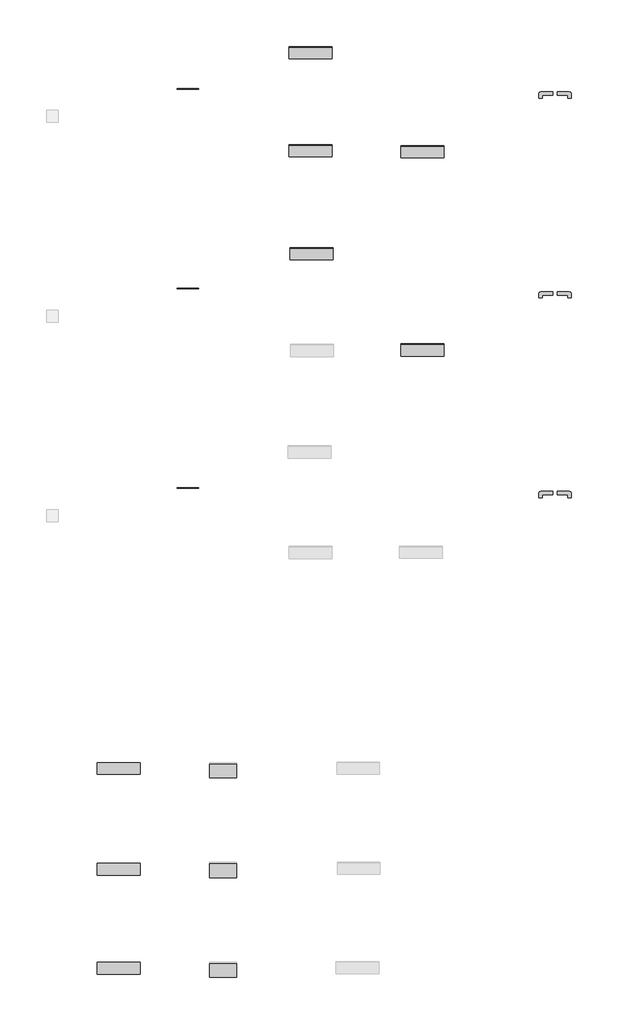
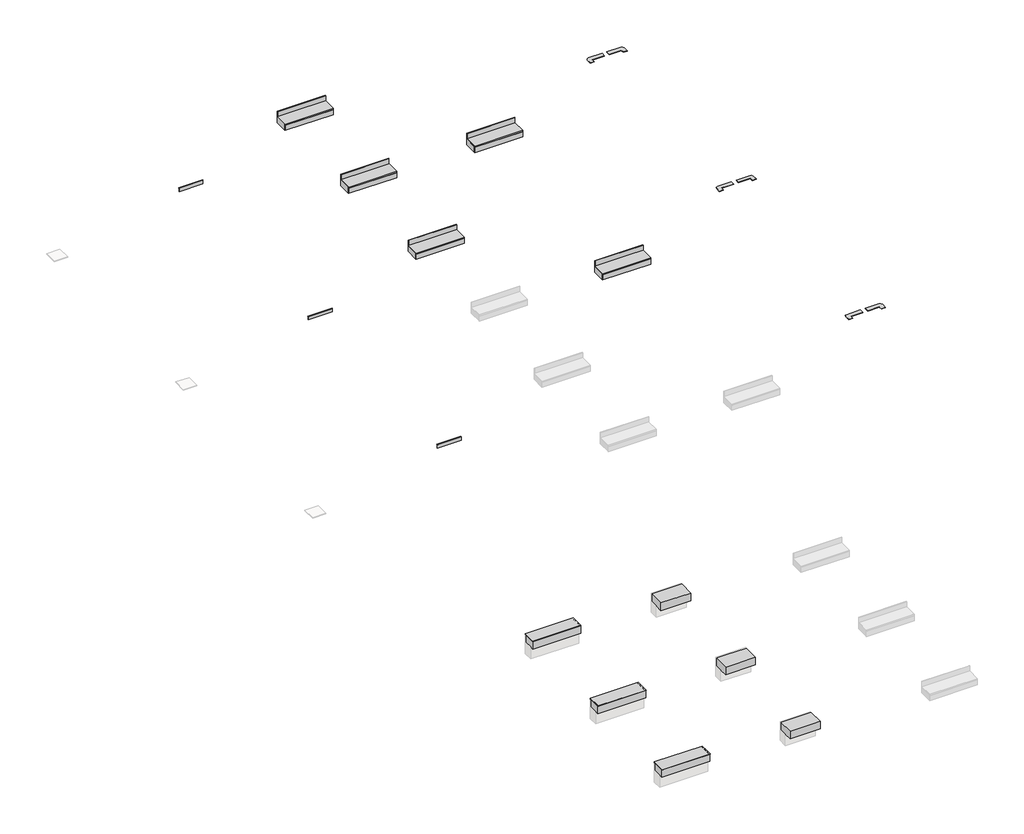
# One storey, part 2 of 2: 18 proxies, 5 stair flights.
"""IFC4 building model written with IfcOpenShell, lengths in millimetres."""

import ifcopenshell
import ifcopenshell.guid

model = None  # the IFC model being written
_history = None  # IfcOwnerHistory: only IFC2X3 demands one
_inside = {}  # id of a spatial element -> (the spatial element, [elements in it])
_under = {}  # id of a project, library or spatial element -> (it, [spatial elements below it])
_declared = {}  # id of a project -> (the project, [libraries it declares])
_typed = {}  # id of a type object -> (the type object, [elements of that type])
_made_of = {}  # id of a material, layer set ... -> (it, [elements and type objects made of it])


def new_model(schema):
    """Start an empty IFC model of exactly this schema.

    Asked for "IFC4X3", IfcOpenShell would pick the latest addendum, in which some entities
    have other attributes; the version numbers below select the first issue.
    IFC2X3 requires an IfcOwnerHistory on every rooted entity: one is made here for all.
    """
    global model, _history
    if schema == "IFC4X3":
        model = ifcopenshell.file(schema_version=(4, 3, 0, 0))
    else:
        model = ifcopenshell.file(schema=schema)
    _inside.clear()
    _under.clear()
    _declared.clear()
    _typed.clear()
    _made_of.clear()
    _history = None
    if model.schema == "IFC2X3":
        org = make("IfcOrganization", Name="unknown")
        user = make(
            "IfcPersonAndOrganization",
            ThePerson=make("IfcPerson", FamilyName="unknown"),
            TheOrganization=org,
        )
        app = make(
            "IfcApplication",
            ApplicationDeveloper=org,
            Version="unknown",
            ApplicationFullName="unknown",
            ApplicationIdentifier="unknown",
        )
        _history = make(
            "IfcOwnerHistory",
            OwningUser=user,
            OwningApplication=app,
            ChangeAction="ADDED",
            CreationDate=0,
        )
    return model


def make(cls, **values):
    """One entity of the class cls with the attributes given. An attribute that is None is left unset."""
    return model.create_entity(
        cls, **{name: value for name, value in values.items() if value is not None}
    )


def rooted(cls, **values):
    """An entity with a GlobalId (a new one), such as an element, a storey or a relation."""
    return make(cls, GlobalId=ifcopenshell.guid.new(), OwnerHistory=_history, **values)


def si_unit(unit_type, name, prefix=None):
    """IfcSIUnit, for example si_unit("LENGTHUNIT", "METRE", prefix="MILLI")."""
    return make("IfcSIUnit", UnitType=unit_type, Prefix=prefix, Name=name)


def assignment(units):
    """IfcUnitAssignment: the units of a project."""
    return None if units is None else make("IfcUnitAssignment", Units=units)


def point(xyz):
    """IfcCartesianPoint."""
    return None if xyz is None else make("IfcCartesianPoint", Coordinates=xyz)


def direction(xyz):
    """IfcDirection."""
    return None if xyz is None else make("IfcDirection", DirectionRatios=xyz)


def frame(location, z_axis=None, x_axis=None):
    """IfcAxis2Placement3D, a coordinate frame: its origin and axes. An axis left out is left unset."""
    return make(
        "IfcAxis2Placement3D",
        Location=point(location),
        Axis=direction(z_axis),
        RefDirection=direction(x_axis),
    )


def frame_2d(location, x_axis=None):
    """IfcAxis2Placement2D, a coordinate frame in the plane: its origin and x axis."""
    return make(
        "IfcAxis2Placement2D", Location=point(location), RefDirection=direction(x_axis)
    )


def origin():
    """The frame at (0, 0, 0) with its axes left unset."""
    return frame((0.0, 0.0, 0.0))


def origin_with_axes():
    """The frame at (0, 0, 0) with the z axis (0, 0, 1) and the x axis (1, 0, 0) written out."""
    return frame((0.0, 0.0, 0.0), z_axis=(0.0, 0.0, 1.0), x_axis=(1.0, 0.0, 0.0))


def place(relative_to, where):
    """IfcLocalPlacement: puts the frame where relative to a parent placement (None: the world)."""
    return make(
        "IfcLocalPlacement", PlacementRelTo=relative_to, RelativePlacement=where
    )


def context(
    kind, dimensions, precision=None, world=None, true_north=None, identifier=None
):
    """IfcGeometricRepresentationContext, for example the 3D "Model" context."""
    return make(
        "IfcGeometricRepresentationContext",
        ContextIdentifier=identifier,
        ContextType=kind,
        CoordinateSpaceDimension=dimensions,
        Precision=precision,
        WorldCoordinateSystem=world,
        TrueNorth=true_north,
    )


def project(units=None, contexts=None):
    """IfcProject with its units and contexts."""
    return rooted(
        "IfcProject",
        Name="project",
        RepresentationContexts=contexts,
        UnitsInContext=assignment(units),
    )


def spatial(cls, under=None, at=None, **own):
    """A site, building, storey or space (cls), placed at a placement, below another one or the project."""
    s = rooted(cls, ObjectPlacement=at, **own)
    if under is not None:
        _under.setdefault(under.id(), (under, []))[1].append(s)
    return s


def polyline(points):
    """IfcPolyline through the points."""
    return make("IfcPolyline", Points=[point(p) for p in points])


def circle_curve(where, radius):
    """IfcCircle in the frame where."""
    return make("IfcCircle", Position=where, Radius=radius)


def trimmed(basis, trim1, trim2, sense, master):
    """IfcTrimmedCurve: the piece of a basis curve between two trims."""
    return make(
        "IfcTrimmedCurve",
        BasisCurve=basis,
        Trim1=trim1,
        Trim2=trim2,
        SenseAgreement=sense,
        MasterRepresentation=master,
    )


def segment(curve, same_sense, transition):
    """IfcCompositeCurveSegment."""
    return make(
        "IfcCompositeCurveSegment",
        Transition=transition,
        SameSense=same_sense,
        ParentCurve=curve,
    )


def composite_curve(segments, self_intersect=None):
    """IfcCompositeCurve: segments joined end to end."""
    return make("IfcCompositeCurve", Segments=segments, SelfIntersect=self_intersect)


def outline(outer, holes=None, kind="AREA"):
    """IfcArbitraryClosedProfileDef: a profile drawn as a closed curve; with holes, ...WithVoids."""
    if holes is None:
        return make("IfcArbitraryClosedProfileDef", ProfileType=kind, OuterCurve=outer)
    return make(
        "IfcArbitraryProfileDefWithVoids",
        ProfileType=kind,
        OuterCurve=outer,
        InnerCurves=holes,
    )


def extrude(swept, where, along, depth):
    """IfcExtrudedAreaSolid: the profile swept, set in the frame where, extruded along a direction by depth."""
    return make(
        "IfcExtrudedAreaSolid",
        SweptArea=swept,
        Position=where,
        ExtrudedDirection=direction(along),
        Depth=depth,
    )


def faces_of(points, faces, orient=None, outer=None):
    """IfcFace entities. A face is a list of loops; a loop is a list of indices into points, from 0.

    orient and outer hold one flag for each loop. By default every Orientation is true, the
    first loop of a face is its IfcFaceOuterBound and the others are IfcFaceBound.
    """
    made = []
    for i, loops in enumerate(faces):
        bounds = []
        for j, loop in enumerate(loops):
            is_outer = j == 0 if outer is None else outer[i][j]
            bounds.append(
                make(
                    "IfcFaceOuterBound" if is_outer else "IfcFaceBound",
                    Bound=make("IfcPolyLoop", Polygon=[points[k] for k in loop]),
                    Orientation=True if orient is None else orient[i][j],
                )
            )
        made.append(make("IfcFace", Bounds=bounds))
    return made


def faceted_brep(points, faces, orient=None, outer=None, voids=None):
    """IfcFacetedBrep: a solid bounded by flat faces; with voids (closed shells), ...WithVoids."""
    shared = [point(p) for p in points]
    hull = make("IfcClosedShell", CfsFaces=faces_of(shared, faces, orient, outer))
    if voids is None:
        return make("IfcFacetedBrep", Outer=hull)
    return make(
        "IfcFacetedBrepWithVoids",
        Outer=hull,
        Voids=[
            make(cls, CfsFaces=faces_of(shared, fs, o, b)) for cls, fs, o, b in voids
        ],
    )


def shape(context_of_items, identifier, shape_type, items):
    """IfcShapeRepresentation: the items that make up one representation, for example the "Body"."""
    return make(
        "IfcShapeRepresentation",
        ContextOfItems=context_of_items,
        RepresentationIdentifier=identifier,
        RepresentationType=shape_type,
        Items=items,
    )


def source(mapping_origin, context_of_items, identifier, shape_type, items):
    """IfcRepresentationMap: a shape defined once, which mapped items show again and again."""
    return make(
        "IfcRepresentationMap",
        MappingOrigin=mapping_origin,
        MappedRepresentation=shape(context_of_items, identifier, shape_type, items),
    )


def transform(
    local_origin,
    x_axis=None,
    y_axis=None,
    z_axis=None,
    scale=None,
    scale2=None,
    scale3=None,
    uniform=True,
):
    """IfcCartesianTransformationOperator3D, or its non-uniform kind. x_axis, y_axis, z_axis: its Axis1, 2, 3."""
    if uniform:
        return make(
            "IfcCartesianTransformationOperator3D",
            Axis1=direction(x_axis),
            Axis2=direction(y_axis),
            LocalOrigin=point(local_origin),
            Scale=scale,
            Axis3=direction(z_axis),
        )
    return make(
        "IfcCartesianTransformationOperator3DnonUniform",
        Axis1=direction(x_axis),
        Axis2=direction(y_axis),
        LocalOrigin=point(local_origin),
        Scale=scale,
        Axis3=direction(z_axis),
        Scale2=scale2,
        Scale3=scale3,
    )


def mapped(mapping_source, mapping_target):
    """IfcMappedItem: shows the shape of a source again, moved by a transform."""
    return make(
        "IfcMappedItem", MappingSource=mapping_source, MappingTarget=mapping_target
    )


def made_of(thing, what):
    """Note that an element or type object is made of a material, layer set ...; save() writes the relation."""
    if what is not None:
        _made_of.setdefault(what.id(), (what, []))[1].append(thing)
    return thing


def element(
    cls,
    number,
    at=None,
    inside=None,
    cuts=None,
    type_object=None,
    material=None,
    context=None,
    identifier="Body",
    shape_type=None,
    held_by="IfcProductDefinitionShape",
    body=None,
    shapes=None,
    **own,
):
    """One element of the class cls, such as IfcWall. Its Tag is "e" and its number.

    at: its placement. inside: the storey or other place that contains it. cuts: it is an
    opening in that element (IfcRelVoidsElement). A single representation is given by context,
    identifier, shape_type and body (its items); several are given by shapes. held_by: the class
    of the entity that holds the representations. save() writes the other relations.
    """
    e = rooted(cls, Tag="e%d" % number, ObjectPlacement=at, **own)
    if body is not None:
        shapes = [shape(context, identifier, shape_type, body)]
    if shapes is not None:
        e.Representation = make(held_by, Representations=shapes)
    if inside is not None:
        _inside.setdefault(inside.id(), (inside, []))[1].append(e)
    if cuts is not None:
        rooted(
            "IfcRelVoidsElement", RelatingBuildingElement=cuts, RelatedOpeningElement=e
        )
    if type_object is not None:
        _typed.setdefault(type_object.id(), (type_object, []))[1].append(e)
    return made_of(e, material)


def aggregate(whole, parts):
    """IfcRelAggregates: a whole, such as a stair, and the parts it consists of."""
    return rooted("IfcRelAggregates", RelatingObject=whole, RelatedObjects=parts)


def save(model, path):
    """Write the relations noted so far, then the file.

    IfcRelAggregates (storeys below a building ...), IfcRelContainedInSpatialStructure (elements
    in a storey), IfcRelDefinesByType, IfcRelAssociatesMaterial and IfcRelDeclares: one each for
    every whole, place, type object, material and project.
    """
    for whole, parts in _under.values():
        aggregate(whole, parts)
    for where, things in _inside.values():
        rooted(
            "IfcRelContainedInSpatialStructure",
            RelatedElements=things,
            RelatingStructure=where,
        )
    for kind, things in _typed.values():
        rooted("IfcRelDefinesByType", RelatedObjects=things, RelatingType=kind)
    for what, things in _made_of.values():
        rooted("IfcRelAssociatesMaterial", RelatedObjects=things, RelatingMaterial=what)
    for by, libraries in _declared.values():
        rooted("IfcRelDeclares", RelatingContext=by, RelatedDefinitions=libraries)
    model.write(path)


def generic_models_5bab8272(model_context):
    return source(origin(), model_context, "Body", "SweptSolid", [
        extrude(outline(composite_curve([segment(polyline([(300.0, 0.0), (0.0, 0.0), (0.0, -80.0), (-100.0, -80.0), (-100.0, 42.0)]), True, "CONTINUOUS"), segment(trimmed(circle_curve(frame_2d((-42.0, 42.0)), 58.0), [point((-100.0, 42.0))], [point((-42.0, 100.0))], False, "CARTESIAN"), True, "CONTINUOUS"), segment(polyline([(-42.0, 100.0), (300.0, 100.0), (300.0, 0.0)]), True, "CONTINUOUS")], self_intersect=False)), origin_with_axes(), (0.0, 0.0, 1.0), 10.0),
    ])


def generic_models_6290b49e(model_context):
    return source(origin(), model_context, "Body", "SweptSolid", [
        extrude(outline(composite_curve([segment(polyline([(300.0, 0.0), (300.0, -100.0), (-42.0, -100.0)]), True, "CONTINUOUS"), segment(trimmed(circle_curve(frame_2d((-42.0, -42.0)), 58.0), [point((-42.0, -100.0))], [point((-100.0, -42.0))], False, "CARTESIAN"), True, "CONTINUOUS"), segment(polyline([(-100.0, -42.0), (-100.0, 80.0), (0.0, 80.0), (0.0, 0.0), (300.0, 0.0)]), True, "CONTINUOUS")], self_intersect=False)), origin_with_axes(), (0.0, 0.0, 1.0), 10.0),
    ])


model = new_model("IFC4")

# Units and contexts
model_context = context("Model", 3, world=origin())
ifc_project = project(units=[si_unit("LENGTHUNIT", "METRE", prefix="MILLI")], contexts=[model_context])

# Site, building, storey
site = spatial("IfcSite", under=ifc_project)
building = spatial("IfcBuilding", under=site)
storey = spatial("IfcBuildingStorey", under=building, Name="EXAGRES_MILAN Series_Catalogue", Elevation=5000.0)

# Proxies
placement = place(None, origin())
element("IfcBuildingElementProxy", 1, Name="Exagres_Milan_Arena_Skirting_9x60", ObjectType="Exagres_Milan_Arena_Skirting_9x60", at=placement, inside=storey, context=model_context, shape_type="SweptSolid", body=[
    extrude(outline(polyline([(-1402.2299086, 5090.0), (-1402.2299086, 5000.0), (-1417.2299086, 5000.0), (-1417.2299086, 5085.0), (-1412.2299086, 5090.0), (-1402.2299086, 5090.0)])), frame((8532.990681, 0.0, 0.0), z_axis=(1.0, 0.0, 0.0), x_axis=(0.0, 1.0, 0.0)), (0.0, 0.0, 1.0), 600.0),
])
element("IfcBuildingElementProxy", 2, Name="Exagres_Milan_Gris_Skirting_9x60", ObjectType="Exagres_Milan_Gris_Skirting_9x60", at=placement, inside=storey, context=model_context, shape_type="SweptSolid", body=[
    extrude(outline(polyline([(-7002.2299086, 5090.0), (-7002.2299086, 5000.0), (-7017.2299086, 5000.0), (-7017.2299086, 5085.0), (-7012.2299086, 5090.0), (-7002.2299086, 5090.0)])), frame((8532.990681, 0.0, 0.0), z_axis=(1.0, 0.0, 0.0), x_axis=(0.0, 1.0, 0.0)), (0.0, 0.0, 1.0), 600.0),
])
element("IfcBuildingElementProxy", 3, Name="Exagres_Milan_Marengo_Skirting_9x60", ObjectType="Exagres_Milan_Marengo_Skirting_9x60", at=placement, inside=storey, context=model_context, shape_type="SweptSolid", body=[
    extrude(outline(polyline([(-12602.2299086, 5090.0), (-12602.2299086, 5000.0), (-12617.2299086, 5000.0), (-12617.2299086, 5085.0), (-12612.2299086, 5090.0), (-12602.2299086, 5090.0)])), frame((8532.990681, 0.0, 0.0), z_axis=(1.0, 0.0, 0.0), x_axis=(0.0, 1.0, 0.0)), (0.0, 0.0, 1.0), 600.0),
])
element("IfcBuildingElementProxy", 4, Name="Wall Sweeps", at=placement, inside=storey, context=model_context, shape_type="SweptSolid", body=[
    extrude(outline(polyline([(-20321.4497575, 5500.0), (-20321.4497575, 5508.0), (-20320.4497575, 5508.0), (-20320.4497575, 5514.0), (-20321.4497575, 5514.0), (-20321.4497575, 5521.0), (-20328.4497575, 5521.0), (-20328.4497575, 5522.0), (-20332.4497575, 5522.0), (-20332.4497575, 5521.0), (-20338.4497575, 5521.0), (-20338.4497575, 5522.0), (-20342.4497575, 5522.0), (-20342.4497575, 5521.0), (-20348.4497575, 5521.0), (-20348.4497575, 5522.0), (-20352.4497575, 5522.0), (-20352.4497575, 5521.0), (-20358.4497575, 5521.0), (-20358.4497575, 5522.0), (-20362.4497575, 5522.0), (-20362.4497575, 5521.0), (-20368.4497575, 5521.0), (-20368.4497575, 5522.0), (-20372.4497575, 5522.0), (-20372.4497575, 5521.0), (-20378.4497575, 5521.0), (-20378.4497575, 5522.0), (-20382.4497575, 5522.0), (-20382.4497575, 5521.0), (-20388.4497575, 5521.0), (-20388.4497575, 5522.0), (-20392.4497575, 5522.0), (-20392.4497575, 5521.0), (-20398.4497575, 5521.0), (-20398.4497575, 5522.0), (-20402.4497575, 5522.0), (-20402.4497575, 5521.0), (-20408.4497575, 5521.0), (-20408.4497575, 5522.0), (-20412.4497575, 5522.0), (-20412.4497575, 5521.0), (-20418.4497575, 5521.0), (-20418.4497575, 5522.0), (-20422.4497575, 5522.0), (-20422.4497575, 5521.0), (-20428.4497575, 5521.0), (-20428.4497575, 5522.0), (-20432.4497575, 5522.0), (-20432.4497575, 5521.0), (-20438.4497575, 5521.0), (-20438.4497575, 5522.0), (-20442.4497575, 5522.0), (-20442.4497575, 5521.0), (-20448.4497575, 5521.0), (-20448.4497575, 5522.0), (-20452.4497575, 5522.0), (-20452.4497575, 5521.0), (-20458.4497575, 5521.0), (-20458.4497575, 5522.0), (-20462.4497575, 5522.0), (-20462.4497575, 5521.0), (-20468.4497575, 5521.0), (-20468.4497575, 5522.0), (-20472.4497575, 5522.0), (-20472.4497575, 5521.0), (-20478.4497575, 5521.0), (-20478.4497575, 5522.0), (-20482.4497575, 5522.0), (-20482.4497575, 5521.0), (-20488.4497575, 5521.0), (-20488.4497575, 5522.0), (-20492.4497575, 5522.0), (-20492.4497575, 5521.0), (-20498.4497575, 5521.0), (-20498.4497575, 5522.0), (-20502.4497575, 5522.0), (-20502.4497575, 5521.0), (-20508.4497575, 5521.0), (-20508.4497575, 5522.0), (-20512.4497575, 5522.0), (-20512.4497575, 5521.0), (-20518.4497575, 5521.0), (-20518.4497575, 5522.0), (-20522.4497575, 5522.0), (-20522.4497575, 5521.0), (-20528.4497575, 5521.0), (-20528.4497575, 5522.0), (-20532.4497575, 5522.0), (-20532.4497575, 5521.0), (-20538.4497575, 5521.0), (-20538.4497575, 5522.0), (-20542.4497575, 5522.0), (-20542.4497575, 5521.0), (-20548.4497575, 5521.0), (-20548.4497575, 5522.0), (-20552.4497575, 5522.0), (-20552.4497575, 5521.0), (-20558.4497575, 5521.0), (-20558.4497575, 5522.0), (-20562.4497575, 5522.0), (-20562.4497575, 5521.0), (-20568.4497575, 5521.0), (-20568.4497575, 5522.0), (-20572.4497575, 5522.0), (-20572.4497575, 5521.0), (-20578.4497575, 5521.0), (-20578.4497575, 5522.0), (-20582.4497575, 5522.0), (-20582.4497575, 5521.0), (-20588.4497575, 5521.0), (-20588.4497575, 5522.0), (-20592.4497575, 5522.0), (-20592.4497575, 5521.0), (-20598.4497575, 5521.0), (-20598.4497575, 5522.0), (-20602.4497575, 5522.0), (-20602.4497575, 5521.0), (-20608.4497575, 5521.0), (-20608.4497575, 5522.0), (-20612.4497575, 5522.0), (-20612.4497575, 5521.0), (-20618.4497575, 5521.0), (-20618.4497575, 5522.0), (-20622.4497575, 5522.0), (-20622.4497575, 5521.0), (-20628.4497575, 5521.0), (-20628.4497575, 5522.0), (-20632.4497575, 5522.0), (-20632.4497575, 5521.0), (-20638.4497575, 5521.0), (-20638.4497575, 5533.0), (-20308.4497575, 5533.0), (-20308.4497575, 5500.0), (-20321.4497575, 5500.0)])), frame((6298.0543811, 0.0, 0.0), z_axis=(1.0, 0.0, 0.0), x_axis=(0.0, 1.0, 0.0)), (0.0, 0.0, 1.0), 1202.0),
])
element("IfcBuildingElementProxy", 5, Name="Wall Sweeps", at=placement, inside=storey, context=model_context, shape_type="Brep", body=[
    faceted_brep([(6298.0543811, -20628.4497575, 5318.74), (6298.0543811, -20628.4497575, 5518.74), (6298.0543811, -20323.4497575, 5518.74), (6298.0543811, -20323.4497575, 5500.0), (6298.0543811, -20323.4497575, 5318.74), (6298.0543811, -20533.4497575, 5318.74), (7500.0543811, -20628.4497575, 5318.74), (7500.0543811, -20533.4497575, 5318.74), (7500.0543811, -20323.4497575, 5318.74), (7500.0543811, -20323.4497575, 5500.0), (7500.0543811, -20323.4497575, 5518.74), (7500.0543811, -20628.4497575, 5518.74)], [[[0, 1, 2, 3, 4, 5]], [[6, 7, 8, 9, 10, 11]], [[0, 5, 4, 8, 7, 6]], [[4, 3, 2, 10, 9, 8]], [[2, 1, 11, 10]], [[1, 0, 6, 11]]]),
])
element("IfcBuildingElementProxy", 6, Name="Wall Sweeps", at=placement, inside=storey, context=model_context, shape_type="SweptSolid", body=[
    extrude(outline(polyline([(-23146.4497575, 5500.0), (-23146.4497575, 5508.0), (-23145.4497575, 5508.0), (-23145.4497575, 5514.0), (-23146.4497575, 5514.0), (-23146.4497575, 5521.0), (-23153.4497575, 5521.0), (-23153.4497575, 5522.0), (-23157.4497575, 5522.0), (-23157.4497575, 5521.0), (-23163.4497575, 5521.0), (-23163.4497575, 5522.0), (-23167.4497575, 5522.0), (-23167.4497575, 5521.0), (-23173.4497575, 5521.0), (-23173.4497575, 5522.0), (-23177.4497575, 5522.0), (-23177.4497575, 5521.0), (-23183.4497575, 5521.0), (-23183.4497575, 5522.0), (-23187.4497575, 5522.0), (-23187.4497575, 5521.0), (-23193.4497575, 5521.0), (-23193.4497575, 5522.0), (-23197.4497575, 5522.0), (-23197.4497575, 5521.0), (-23203.4497575, 5521.0), (-23203.4497575, 5522.0), (-23207.4497575, 5522.0), (-23207.4497575, 5521.0), (-23213.4497575, 5521.0), (-23213.4497575, 5522.0), (-23217.4497575, 5522.0), (-23217.4497575, 5521.0), (-23223.4497575, 5521.0), (-23223.4497575, 5522.0), (-23227.4497575, 5522.0), (-23227.4497575, 5521.0), (-23233.4497575, 5521.0), (-23233.4497575, 5522.0), (-23237.4497575, 5522.0), (-23237.4497575, 5521.0), (-23243.4497575, 5521.0), (-23243.4497575, 5522.0), (-23247.4497575, 5522.0), (-23247.4497575, 5521.0), (-23253.4497575, 5521.0), (-23253.4497575, 5522.0), (-23257.4497575, 5522.0), (-23257.4497575, 5521.0), (-23263.4497575, 5521.0), (-23263.4497575, 5522.0), (-23267.4497575, 5522.0), (-23267.4497575, 5521.0), (-23273.4497575, 5521.0), (-23273.4497575, 5522.0), (-23277.4497575, 5522.0), (-23277.4497575, 5521.0), (-23283.4497575, 5521.0), (-23283.4497575, 5522.0), (-23287.4497575, 5522.0), (-23287.4497575, 5521.0), (-23293.4497575, 5521.0), (-23293.4497575, 5522.0), (-23297.4497575, 5522.0), (-23297.4497575, 5521.0), (-23303.4497575, 5521.0), (-23303.4497575, 5522.0), (-23307.4497575, 5522.0), (-23307.4497575, 5521.0), (-23313.4497575, 5521.0), (-23313.4497575, 5522.0), (-23317.4497575, 5522.0), (-23317.4497575, 5521.0), (-23323.4497575, 5521.0), (-23323.4497575, 5522.0), (-23327.4497575, 5522.0), (-23327.4497575, 5521.0), (-23333.4497575, 5521.0), (-23333.4497575, 5522.0), (-23337.4497575, 5522.0), (-23337.4497575, 5521.0), (-23343.4497575, 5521.0), (-23343.4497575, 5522.0), (-23347.4497575, 5522.0), (-23347.4497575, 5521.0), (-23353.4497575, 5521.0), (-23353.4497575, 5522.0), (-23357.4497575, 5522.0), (-23357.4497575, 5521.0), (-23363.4497575, 5521.0), (-23363.4497575, 5522.0), (-23367.4497575, 5522.0), (-23367.4497575, 5521.0), (-23373.4497575, 5521.0), (-23373.4497575, 5522.0), (-23377.4497575, 5522.0), (-23377.4497575, 5521.0), (-23383.4497575, 5521.0), (-23383.4497575, 5522.0), (-23387.4497575, 5522.0), (-23387.4497575, 5521.0), (-23393.4497575, 5521.0), (-23393.4497575, 5522.0), (-23397.4497575, 5522.0), (-23397.4497575, 5521.0), (-23403.4497575, 5521.0), (-23403.4497575, 5522.0), (-23407.4497575, 5522.0), (-23407.4497575, 5521.0), (-23413.4497575, 5521.0), (-23413.4497575, 5522.0), (-23417.4497575, 5522.0), (-23417.4497575, 5521.0), (-23423.4497575, 5521.0), (-23423.4497575, 5522.0), (-23427.4497575, 5522.0), (-23427.4497575, 5521.0), (-23433.4497575, 5521.0), (-23433.4497575, 5522.0), (-23437.4497575, 5522.0), (-23437.4497575, 5521.0), (-23443.4497575, 5521.0), (-23443.4497575, 5522.0), (-23447.4497575, 5522.0), (-23447.4497575, 5521.0), (-23453.4497575, 5521.0), (-23453.4497575, 5522.0), (-23457.4497575, 5522.0), (-23457.4497575, 5521.0), (-23463.4497575, 5521.0), (-23463.4497575, 5533.0), (-23133.4497575, 5533.0), (-23133.4497575, 5500.0), (-23146.4497575, 5500.0)])), frame((6298.0543811, 0.0, 0.0), z_axis=(1.0, 0.0, 0.0), x_axis=(0.0, 1.0, 0.0)), (0.0, 0.0, 1.0), 1202.0),
])
element("IfcBuildingElementProxy", 7, Name="Wall Sweeps", at=placement, inside=storey, context=model_context, shape_type="Brep", body=[
    faceted_brep([(6298.0543811, -23453.4497575, 5318.74), (6298.0543811, -23453.4497575, 5518.74), (6298.0543811, -23148.4497575, 5518.74), (6298.0543811, -23148.4497575, 5500.0), (6298.0543811, -23148.4497575, 5318.74), (6298.0543811, -23358.4497575, 5318.74), (7500.0543811, -23453.4497575, 5318.74), (7500.0543811, -23358.4497575, 5318.74), (7500.0543811, -23148.4497575, 5318.74), (7500.0543811, -23148.4497575, 5500.0), (7500.0543811, -23148.4497575, 5518.74), (7500.0543811, -23453.4497575, 5518.74)], [[[0, 1, 2, 3, 4, 5]], [[6, 7, 8, 9, 10, 11]], [[0, 5, 4, 8, 7, 6]], [[4, 3, 2, 10, 9, 8]], [[2, 1, 11, 10]], [[1, 0, 6, 11]]]),
])
element("IfcBuildingElementProxy", 8, Name="Wall Sweeps", at=placement, inside=storey, context=model_context, shape_type="SweptSolid", body=[
    extrude(outline(polyline([(-25921.4497575, 5500.0), (-25921.4497575, 5508.0), (-25920.4497575, 5508.0), (-25920.4497575, 5514.0), (-25921.4497575, 5514.0), (-25921.4497575, 5521.0), (-25928.4497575, 5521.0), (-25928.4497575, 5522.0), (-25932.4497575, 5522.0), (-25932.4497575, 5521.0), (-25938.4497575, 5521.0), (-25938.4497575, 5522.0), (-25942.4497575, 5522.0), (-25942.4497575, 5521.0), (-25948.4497575, 5521.0), (-25948.4497575, 5522.0), (-25952.4497575, 5522.0), (-25952.4497575, 5521.0), (-25958.4497575, 5521.0), (-25958.4497575, 5522.0), (-25962.4497575, 5522.0), (-25962.4497575, 5521.0), (-25968.4497575, 5521.0), (-25968.4497575, 5522.0), (-25972.4497575, 5522.0), (-25972.4497575, 5521.0), (-25978.4497575, 5521.0), (-25978.4497575, 5522.0), (-25982.4497575, 5522.0), (-25982.4497575, 5521.0), (-25988.4497575, 5521.0), (-25988.4497575, 5522.0), (-25992.4497575, 5522.0), (-25992.4497575, 5521.0), (-25998.4497575, 5521.0), (-25998.4497575, 5522.0), (-26002.4497575, 5522.0), (-26002.4497575, 5521.0), (-26008.4497575, 5521.0), (-26008.4497575, 5522.0), (-26012.4497575, 5522.0), (-26012.4497575, 5521.0), (-26018.4497575, 5521.0), (-26018.4497575, 5522.0), (-26022.4497575, 5522.0), (-26022.4497575, 5521.0), (-26028.4497575, 5521.0), (-26028.4497575, 5522.0), (-26032.4497575, 5522.0), (-26032.4497575, 5521.0), (-26038.4497575, 5521.0), (-26038.4497575, 5522.0), (-26042.4497575, 5522.0), (-26042.4497575, 5521.0), (-26048.4497575, 5521.0), (-26048.4497575, 5522.0), (-26052.4497575, 5522.0), (-26052.4497575, 5521.0), (-26058.4497575, 5521.0), (-26058.4497575, 5522.0), (-26062.4497575, 5522.0), (-26062.4497575, 5521.0), (-26068.4497575, 5521.0), (-26068.4497575, 5522.0), (-26072.4497575, 5522.0), (-26072.4497575, 5521.0), (-26078.4497575, 5521.0), (-26078.4497575, 5522.0), (-26082.4497575, 5522.0), (-26082.4497575, 5521.0), (-26088.4497575, 5521.0), (-26088.4497575, 5522.0), (-26092.4497575, 5522.0), (-26092.4497575, 5521.0), (-26098.4497575, 5521.0), (-26098.4497575, 5522.0), (-26102.4497575, 5522.0), (-26102.4497575, 5521.0), (-26108.4497575, 5521.0), (-26108.4497575, 5522.0), (-26112.4497575, 5522.0), (-26112.4497575, 5521.0), (-26118.4497575, 5521.0), (-26118.4497575, 5522.0), (-26122.4497575, 5522.0), (-26122.4497575, 5521.0), (-26128.4497575, 5521.0), (-26128.4497575, 5522.0), (-26132.4497575, 5522.0), (-26132.4497575, 5521.0), (-26138.4497575, 5521.0), (-26138.4497575, 5522.0), (-26142.4497575, 5522.0), (-26142.4497575, 5521.0), (-26148.4497575, 5521.0), (-26148.4497575, 5522.0), (-26152.4497575, 5522.0), (-26152.4497575, 5521.0), (-26158.4497575, 5521.0), (-26158.4497575, 5522.0), (-26162.4497575, 5522.0), (-26162.4497575, 5521.0), (-26168.4497575, 5521.0), (-26168.4497575, 5522.0), (-26172.4497575, 5522.0), (-26172.4497575, 5521.0), (-26178.4497575, 5521.0), (-26178.4497575, 5522.0), (-26182.4497575, 5522.0), (-26182.4497575, 5521.0), (-26188.4497575, 5521.0), (-26188.4497575, 5522.0), (-26192.4497575, 5522.0), (-26192.4497575, 5521.0), (-26198.4497575, 5521.0), (-26198.4497575, 5522.0), (-26202.4497575, 5522.0), (-26202.4497575, 5521.0), (-26208.4497575, 5521.0), (-26208.4497575, 5522.0), (-26212.4497575, 5522.0), (-26212.4497575, 5521.0), (-26218.4497575, 5521.0), (-26218.4497575, 5522.0), (-26222.4497575, 5522.0), (-26222.4497575, 5521.0), (-26228.4497575, 5521.0), (-26228.4497575, 5522.0), (-26232.4497575, 5522.0), (-26232.4497575, 5521.0), (-26238.4497575, 5521.0), (-26238.4497575, 5533.0), (-25908.4497575, 5533.0), (-25908.4497575, 5500.0), (-25921.4497575, 5500.0)])), frame((6298.0543811, 0.0, 0.0), z_axis=(1.0, 0.0, 0.0), x_axis=(0.0, 1.0, 0.0)), (0.0, 0.0, 1.0), 1202.0),
])
element("IfcBuildingElementProxy", 9, Name="Wall Sweeps", at=placement, inside=storey, context=model_context, shape_type="Brep", body=[
    faceted_brep([(6298.0543811, -26228.4497575, 5318.74), (6298.0543811, -26228.4497575, 5518.74), (6298.0543811, -25923.4497575, 5518.74), (6298.0543811, -25923.4497575, 5500.0), (6298.0543811, -25923.4497575, 5318.74), (6298.0543811, -26133.4497575, 5318.74), (7500.0543811, -26228.4497575, 5318.74), (7500.0543811, -26133.4497575, 5318.74), (7500.0543811, -25923.4497575, 5318.74), (7500.0543811, -25923.4497575, 5500.0), (7500.0543811, -25923.4497575, 5518.74), (7500.0543811, -26228.4497575, 5518.74)], [[[0, 1, 2, 3, 4, 5]], [[6, 7, 8, 9, 10, 11]], [[0, 5, 4, 8, 7, 6]], [[4, 3, 2, 10, 9, 8]], [[2, 1, 11, 10]], [[1, 0, 6, 11]]]),
])
element("IfcBuildingElementProxy", 10, Name="Wall Sweeps", at=placement, inside=storey, context=model_context, shape_type="Brep", body=[
    faceted_brep([(9448.0543811, -20733.4497575, 5300.0), (9448.0543811, -20733.4497575, 5500.0), (9448.0543811, -20333.4497575, 5500.0), (9448.0543811, -20333.4497575, 5300.0), (9448.0543811, -20533.4497575, 5300.0), (10198.0543811, -20733.4497575, 5300.0), (10198.0543811, -20533.4497575, 5300.0), (10198.0543811, -20333.4497575, 5300.0), (10198.0543811, -20333.4497575, 5500.0), (10198.0543811, -20733.4497575, 5500.0)], [[[0, 1, 2, 3, 4]], [[5, 6, 7, 8, 9]], [[0, 4, 3, 7, 6, 5]], [[3, 2, 8, 7]], [[2, 1, 9, 8]], [[1, 0, 5, 9]]]),
])
element("IfcBuildingElementProxy", 11, Name="Wall Sweeps", at=placement, inside=storey, context=model_context, shape_type="Brep", body=[
    faceted_brep([(9448.0543811, -23533.4497575, 5300.0), (9448.0543811, -23533.4497575, 5500.0), (9448.0543811, -23133.4497575, 5500.0), (9448.0543811, -23133.4497575, 5300.0), (9448.0543811, -23333.4497575, 5300.0), (10198.0543811, -23533.4497575, 5300.0), (10198.0543811, -23333.4497575, 5300.0), (10198.0543811, -23133.4497575, 5300.0), (10198.0543811, -23133.4497575, 5500.0), (10198.0543811, -23533.4497575, 5500.0)], [[[0, 1, 2, 3, 4]], [[5, 6, 7, 8, 9]], [[0, 4, 3, 7, 6, 5]], [[3, 2, 8, 7]], [[2, 1, 9, 8]], [[1, 0, 5, 9]]]),
])
element("IfcBuildingElementProxy", 12, Name="Wall Sweeps", at=placement, inside=storey, context=model_context, shape_type="Brep", body=[
    faceted_brep([(9448.0543811, -26333.4497575, 5300.0), (9448.0543811, -26333.4497575, 5500.0), (9448.0543811, -25933.4497575, 5500.0), (9448.0543811, -25933.4497575, 5300.0), (9448.0543811, -26133.4497575, 5300.0), (10198.0543811, -26333.4497575, 5300.0), (10198.0543811, -26133.4497575, 5300.0), (10198.0543811, -25933.4497575, 5300.0), (10198.0543811, -25933.4497575, 5500.0), (10198.0543811, -26333.4497575, 5500.0)], [[[0, 1, 2, 3, 4]], [[5, 6, 7, 8, 9]], [[0, 4, 3, 7, 6, 5]], [[3, 2, 8, 7]], [[2, 1, 9, 8]], [[1, 0, 5, 9]]]),
])
generic_models_shape = generic_models_5bab8272(model_context)
element("IfcBuildingElementProxy", 13, Name="EXAGRES - Step Skirting Straight 42.3x17.5 : Exagres_Milan_Marengo_Left", ObjectType="EXAGRES - Step Skirting Straight 42.3x17.5 : Exagres_Milan_Marengo_Left", at=placement, inside=storey, context=model_context, shape_type="MappedRepresentation", body=[
    mapped(generic_models_shape, transform((18782.0707994, -12795.5173558, 5000.0), x_axis=(1.0, 0.0, 0.0), y_axis=(0.0, 1.0, 0.0), z_axis=(0.0, 0.0, 1.0))),
])
element("IfcBuildingElementProxy", 14, Name="EXAGRES - Step Skirting Straight 42.3x17.5 : Exagres_Milan_Gris_Left", ObjectType="EXAGRES - Step Skirting Straight 42.3x17.5 : Exagres_Milan_Gris_Left", at=placement, inside=storey, context=model_context, shape_type="MappedRepresentation", body=[
    mapped(generic_models_shape, transform((18782.0707994, -7195.5173558, 5000.0), x_axis=(1.0, 0.0, 0.0), y_axis=(0.0, 1.0, 0.0), z_axis=(0.0, 0.0, 1.0))),
])
element("IfcBuildingElementProxy", 15, Name="EXAGRES - Step Skirting Straight 42.3x17.5 : Exagres_Milan_Arena_Left", ObjectType="EXAGRES - Step Skirting Straight 42.3x17.5 : Exagres_Milan_Arena_Left", at=placement, inside=storey, context=model_context, shape_type="MappedRepresentation", body=[
    mapped(generic_models_shape, transform((18782.0707994, -1595.5173558, 5000.0), x_axis=(1.0, 0.0, 0.0), y_axis=(0.0, 1.0, 0.0), z_axis=(0.0, 0.0, 1.0))),
])
generic_models_2_shape = generic_models_6290b49e(model_context)
element("IfcBuildingElementProxy", 16, Name="EXAGRES - Step Skirting Straight 42.3x17.5 : Exagres_Milan_Arena_Right", ObjectType="EXAGRES - Step Skirting Straight 42.3x17.5 : Exagres_Milan_Arena_Right", at=placement, inside=storey, context=model_context, shape_type="MappedRepresentation", body=[
    mapped(generic_models_2_shape, transform((19503.4839143, -1595.5173558, 5000.0), x_axis=(-1.0, 0.0, 0.0), y_axis=(0.0, -1.0, 0.0), z_axis=(0.0, 0.0, 1.0))),
])
element("IfcBuildingElementProxy", 17, Name="EXAGRES - Step Skirting Straight 42.3x17.5 : Exagres_Milan_Marengo_Right", ObjectType="EXAGRES - Step Skirting Straight 42.3x17.5 : Exagres_Milan_Marengo_Right", at=placement, inside=storey, context=model_context, shape_type="MappedRepresentation", body=[
    mapped(generic_models_2_shape, transform((19503.4839143, -12795.5173558, 5000.0), x_axis=(-1.0, 0.0, 0.0), y_axis=(0.0, -1.0, 0.0), z_axis=(0.0, 0.0, 1.0))),
])
element("IfcBuildingElementProxy", 18, Name="EXAGRES - Step Skirting Straight 42.3x17.5 : Exagres_Milan_Gris_Right", ObjectType="EXAGRES - Step Skirting Straight 42.3x17.5 : Exagres_Milan_Gris_Right", at=placement, inside=storey, context=model_context, shape_type="MappedRepresentation", body=[
    mapped(generic_models_2_shape, transform((19503.4839143, -7195.5173558, 5000.0), x_axis=(-1.0, 0.0, 0.0), y_axis=(0.0, -1.0, 0.0), z_axis=(0.0, 0.0, 1.0))),
])

# Stair flights
element("IfcStairFlight", 19, ObjectType="EXAGRES_Straight - Milán Arena R11+C", at=placement, inside=storey, context=model_context, shape_type="SweptSolid", body=[
    extrude(outline(polyline([(11681.9669384, -3307.489073), (11681.9669384, -2977.489073), (12881.9669384, -2977.489073), (12881.9669384, -3307.489073), (11681.9669384, -3307.489073)])), frame((0.0, 0.0, 5000.0), z_axis=(0.0, 0.0, 1.0), x_axis=(1.0, 0.0, 0.0)), (0.0, 0.0, 1.0), 151.6666667),
    extrude(outline(polyline([(-2977.489073, 5151.6666667), (-3302.5795241, 5151.6666667), (-3302.5795241, 5154.6666667), (-3307.489073, 5154.6666667), (-3307.489073, 5147.6666667), (-3308.489073, 5147.6666667), (-3308.489073, 5141.6666667), (-3307.489073, 5141.6666667), (-3307.489073, 5133.6666667), (-3320.489073, 5133.6666667), (-3320.489073, 5166.6666667), (-2977.489073, 5166.6666667), (-2977.489073, 5151.6666667)])), frame((11681.9669384, 0.0, 0.0), z_axis=(1.0, 0.0, 0.0), x_axis=(0.0, 1.0, 0.0)), (0.0, 0.0, 1.0), 1200.0),
    extrude(outline(polyline([(12881.9669384, -3307.489073), (12881.9669384, -3320.489073), (11681.9669384, -3320.489073), (11681.9669384, -3307.489073), (12881.9669384, -3307.489073)])), frame((0.0, 0.0, 5000.0), z_axis=(0.0, 0.0, 1.0), x_axis=(1.0, 0.0, 0.0)), (0.0, 0.0, 1.0), 133.6666667),
    extrude(outline(polyline([(12881.9669384, -2977.489073), (12881.9669384, -2990.489073), (11681.9669384, -2990.489073), (11681.9669384, -2977.489073), (12881.9669384, -2977.489073)])), frame((0.0, 0.0, 5166.6666667), z_axis=(0.0, 0.0, 1.0), x_axis=(1.0, 0.0, 0.0)), (0.0, 0.0, 1.0), 133.6666667),
])
element("IfcStairFlight", 20, ObjectType="EXAGRES_Straight - Milán Arena R9", at=placement, inside=storey, context=model_context, shape_type="SweptSolid", body=[
    extrude(outline(polyline([(11681.7321573, -554.6728431), (11681.7321573, -224.6728431), (12881.7321573, -224.6728431), (12881.7321573, -554.6728431), (11681.7321573, -554.6728431)])), frame((0.0, 0.0, 5000.0), z_axis=(0.0, 0.0, 1.0), x_axis=(1.0, 0.0, 0.0)), (0.0, 0.0, 1.0), 151.6666667),
    extrude(outline(polyline([(-224.6728431, 5151.6666667), (-549.7632942, 5151.6666667), (-549.7632942, 5154.6666667), (-554.6728431, 5154.6666667), (-554.6728431, 5147.6666667), (-555.6728431, 5147.6666667), (-555.6728431, 5141.6666667), (-554.6728431, 5141.6666667), (-554.6728431, 5133.6666667), (-567.6728431, 5133.6666667), (-567.6728431, 5166.6666667), (-224.6728431, 5166.6666667), (-224.6728431, 5151.6666667)])), frame((11681.7321573, 0.0, 0.0), z_axis=(1.0, 0.0, 0.0), x_axis=(0.0, 1.0, 0.0)), (0.0, 0.0, 1.0), 1200.0),
    extrude(outline(polyline([(12881.7321573, -554.6728431), (12881.7321573, -567.6728431), (11681.7321573, -567.6728431), (11681.7321573, -554.6728431), (12881.7321573, -554.6728431)])), frame((0.0, 0.0, 5000.0), z_axis=(0.0, 0.0, 1.0), x_axis=(1.0, 0.0, 0.0)), (0.0, 0.0, 1.0), 133.6666667),
    extrude(outline(polyline([(12881.7321573, -224.6728431), (12881.7321573, -237.6728431), (11681.7321573, -237.6728431), (11681.7321573, -224.6728431), (12881.7321573, -224.6728431)])), frame((0.0, 0.0, 5166.6666667), z_axis=(0.0, 0.0, 1.0), x_axis=(1.0, 0.0, 0.0)), (0.0, 0.0, 1.0), 133.6666667),
])
element("IfcStairFlight", 21, ObjectType="EXAGRES_Straight - Milán Gris R9", at=placement, inside=storey, context=model_context, shape_type="SweptSolid", body=[
    extrude(outline(polyline([(11707.0704591, -6195.5879699), (11707.0704591, -5865.5879699), (12907.0704591, -5865.5879699), (12907.0704591, -6195.5879699), (11707.0704591, -6195.5879699)])), frame((0.0, 0.0, 5000.0), z_axis=(0.0, 0.0, 1.0), x_axis=(1.0, 0.0, 0.0)), (0.0, 0.0, 1.0), 151.6666667),
    extrude(outline(polyline([(-5865.5879699, 5151.6666667), (-6190.678421, 5151.6666667), (-6190.678421, 5154.6666667), (-6195.5879699, 5154.6666667), (-6195.5879699, 5147.6666667), (-6196.5879699, 5147.6666667), (-6196.5879699, 5141.6666667), (-6195.5879699, 5141.6666667), (-6195.5879699, 5133.6666667), (-6208.5879699, 5133.6666667), (-6208.5879699, 5166.6666667), (-5865.5879699, 5166.6666667), (-5865.5879699, 5151.6666667)])), frame((11707.0704591, 0.0, 0.0), z_axis=(1.0, 0.0, 0.0), x_axis=(0.0, 1.0, 0.0)), (0.0, 0.0, 1.0), 1200.0),
    extrude(outline(polyline([(12907.0704591, -6195.5879699), (12907.0704591, -6208.5879699), (11707.0704591, -6208.5879699), (11707.0704591, -6195.5879699), (12907.0704591, -6195.5879699)])), frame((0.0, 0.0, 5000.0), z_axis=(0.0, 0.0, 1.0), x_axis=(1.0, 0.0, 0.0)), (0.0, 0.0, 1.0), 133.6666667),
    extrude(outline(polyline([(12907.0704591, -5865.5879699), (12907.0704591, -5878.5879699), (11707.0704591, -5878.5879699), (11707.0704591, -5865.5879699), (12907.0704591, -5865.5879699)])), frame((0.0, 0.0, 5166.6666667), z_axis=(0.0, 0.0, 1.0), x_axis=(1.0, 0.0, 0.0)), (0.0, 0.0, 1.0), 133.6666667),
])
element("IfcStairFlight", 22, ObjectType="EXAGRES_Straight_33x33 - Milán Arena R11+C", at=placement, inside=storey, context=model_context, shape_type="SweptSolid", body=[
    extrude(outline(polyline([(14821.5097285, -3332.2584821), (14821.5097285, -3002.2584821), (16021.5097285, -3002.2584821), (16021.5097285, -3332.2584821), (14821.5097285, -3332.2584821)])), frame((0.0, 0.0, 5000.0), z_axis=(0.0, 0.0, 1.0), x_axis=(1.0, 0.0, 0.0)), (0.0, 0.0, 1.0), 151.6666667),
    extrude(outline(polyline([(-3002.2584821, 5151.6666667), (-3327.3489332, 5151.6666667), (-3327.3489332, 5154.6666667), (-3332.2584821, 5154.6666667), (-3332.2584821, 5147.6666667), (-3333.2584821, 5147.6666667), (-3333.2584821, 5141.6666667), (-3332.2584821, 5141.6666667), (-3332.2584821, 5133.6666667), (-3345.2584821, 5133.6666667), (-3345.2584821, 5166.6666667), (-3002.2584821, 5166.6666667), (-3002.2584821, 5151.6666667)])), frame((14821.5097285, 0.0, 0.0), z_axis=(1.0, 0.0, 0.0), x_axis=(0.0, 1.0, 0.0)), (0.0, 0.0, 1.0), 1200.0),
    extrude(outline(polyline([(16021.5097285, -3332.2584821), (16021.5097285, -3345.2584821), (14821.5097285, -3345.2584821), (14821.5097285, -3332.2584821), (16021.5097285, -3332.2584821)])), frame((0.0, 0.0, 5000.0), z_axis=(0.0, 0.0, 1.0), x_axis=(1.0, 0.0, 0.0)), (0.0, 0.0, 1.0), 133.6666667),
    extrude(outline(polyline([(16021.5097285, -3002.2584821), (16021.5097285, -3015.2584821), (14821.5097285, -3015.2584821), (14821.5097285, -3002.2584821), (16021.5097285, -3002.2584821)])), frame((0.0, 0.0, 5166.6666667), z_axis=(0.0, 0.0, 1.0), x_axis=(1.0, 0.0, 0.0)), (0.0, 0.0, 1.0), 133.6666667),
])
element("IfcStairFlight", 23, ObjectType="EXAGRES_Straight_33x33 - Milán Gris R11+C", at=placement, inside=storey, context=model_context, shape_type="SweptSolid", body=[
    extrude(outline(polyline([(14819.7478613, -8891.7940934), (14819.7478613, -8561.7940934), (16019.7478613, -8561.7940934), (16019.7478613, -8891.7940934), (14819.7478613, -8891.7940934)])), frame((0.0, 0.0, 5000.0), z_axis=(0.0, 0.0, 1.0), x_axis=(1.0, 0.0, 0.0)), (0.0, 0.0, 1.0), 151.6666667),
    extrude(outline(polyline([(-8561.7940934, 5151.6666667), (-8886.8845445, 5151.6666667), (-8886.8845445, 5154.6666667), (-8891.7940934, 5154.6666667), (-8891.7940934, 5147.6666667), (-8892.7940934, 5147.6666667), (-8892.7940934, 5141.6666667), (-8891.7940934, 5141.6666667), (-8891.7940934, 5133.6666667), (-8904.7940934, 5133.6666667), (-8904.7940934, 5166.6666667), (-8561.7940934, 5166.6666667), (-8561.7940934, 5151.6666667)])), frame((14819.7478613, 0.0, 0.0), z_axis=(1.0, 0.0, 0.0), x_axis=(0.0, 1.0, 0.0)), (0.0, 0.0, 1.0), 1200.0),
    extrude(outline(polyline([(16019.7478613, -8891.7940934), (16019.7478613, -8904.7940934), (14819.7478613, -8904.7940934), (14819.7478613, -8891.7940934), (16019.7478613, -8891.7940934)])), frame((0.0, 0.0, 5000.0), z_axis=(0.0, 0.0, 1.0), x_axis=(1.0, 0.0, 0.0)), (0.0, 0.0, 1.0), 133.6666667),
    extrude(outline(polyline([(16019.7478613, -8561.7940934), (16019.7478613, -8574.7940934), (14819.7478613, -8574.7940934), (14819.7478613, -8561.7940934), (16019.7478613, -8561.7940934)])), frame((0.0, 0.0, 5166.6666667), z_axis=(0.0, 0.0, 1.0), x_axis=(1.0, 0.0, 0.0)), (0.0, 0.0, 1.0), 133.6666667),
])

save(model, "model.ifc")
